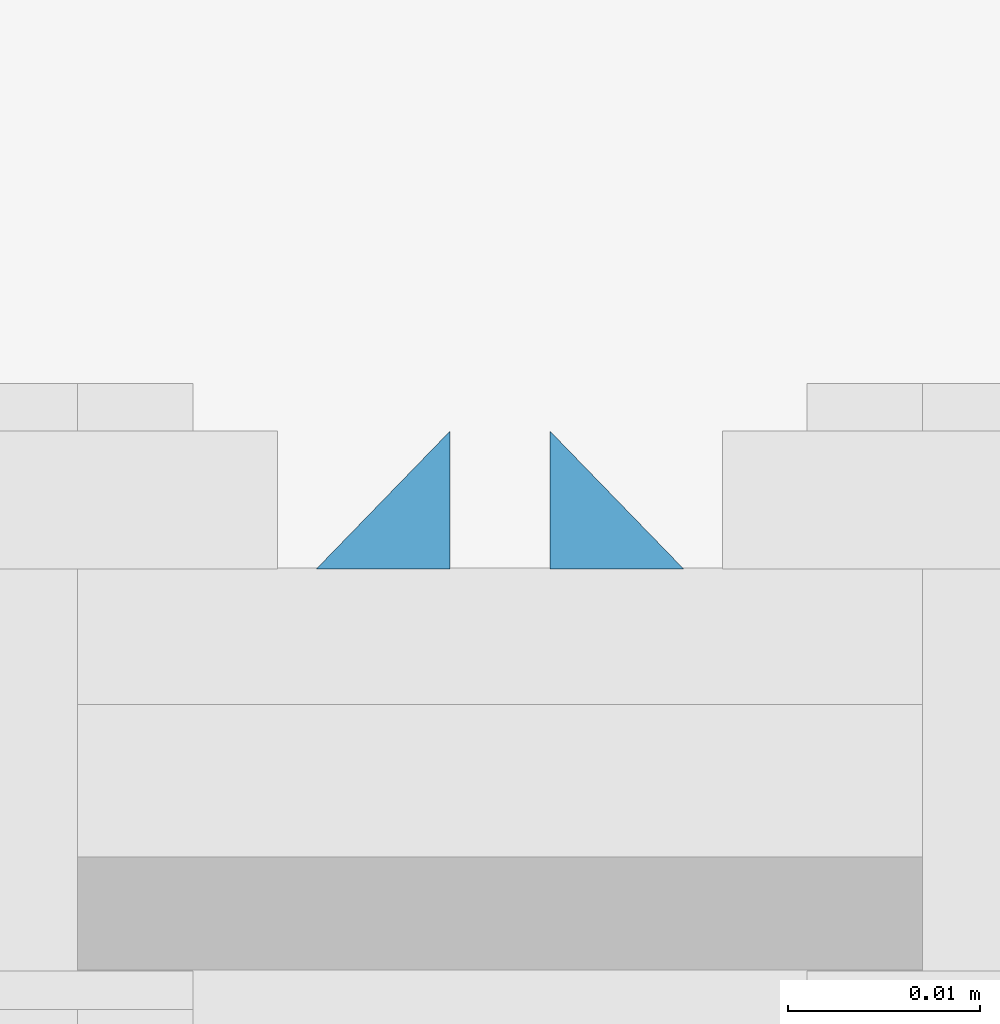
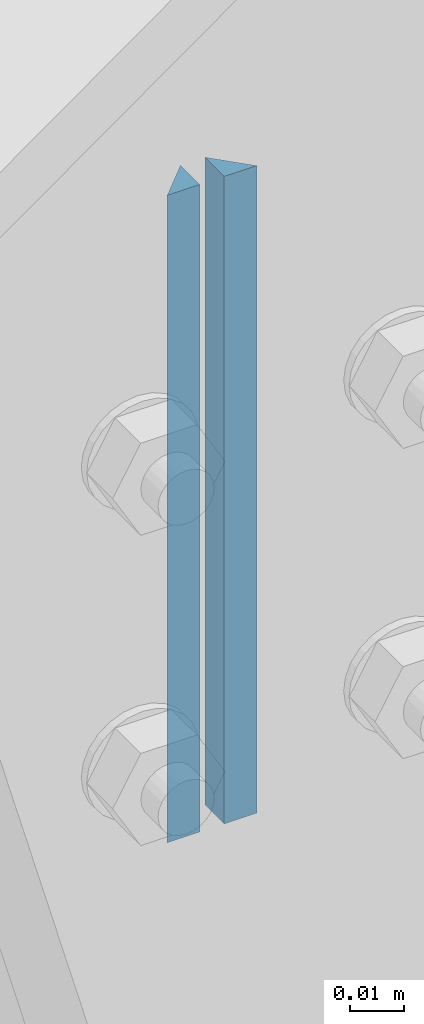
# One storey, part 19 of 251: 4 fasteners.
"""IFC4 building model written with IfcOpenShell, lengths in metres."""

from ifc_helpers import new_model, si_unit, frame, origin_with_axes, place, context, project, spatial, polyline, outline, extrude, type_object, element, save


model = new_model("IFC4")

# Units and contexts
model_context = context("Model", 3, precision=1e-05, world=origin_with_axes())
ifc_project = project(units=[si_unit("LENGTHUNIT", "METRE"), si_unit("AREAUNIT", "SQUARE_METRE"), si_unit("VOLUMEUNIT", "CUBIC_METRE"), si_unit("MASSUNIT", "GRAM", prefix="KILO"), si_unit("TIMEUNIT", "SECOND"), si_unit("PLANEANGLEUNIT", "RADIAN"), si_unit("SOLIDANGLEUNIT", "STERADIAN"), si_unit("THERMODYNAMICTEMPERATUREUNIT", "DEGREE_CELSIUS")], contexts=[model_context])

# Site, building, storey
placement_1 = place(None, origin_with_axes())
site = spatial("IfcSite", under=ifc_project, at=placement_1, Name="Italia", CompositionType="ELEMENT")
building = spatial("IfcBuilding", under=site, at=placement_1, Name="Deposito", CompositionType="ELEMENT")
storey = spatial("IfcBuildingStorey", under=building, at=placement_1, Name="Storey 0", CompositionType="ELEMENT", Elevation=0.0)

# Fasteners
fastener_type_1 = type_object("IfcFastenerType", Name="Collegamento -069_-070", PredefinedType="WELD")
placement_2 = place(placement_1, origin_with_axes())
fastener_1_placement = place(placement_2, origin_with_axes())
element("IfcFastener", 1, at=fastener_1_placement, inside=storey, type_object=fastener_type_1, Name="Collegamento -069_-070", context=model_context, shape_type="SweptSolid", body=[
    extrude(outline(polyline([(0.0, 0.0), (0.00717336, -0.00695801), (0.0, -0.00695801), (0.0, 0.0)])), frame((6.04044, 0.01795, 6.74713), z_axis=(0.0, 0.0, 1.0), x_axis=(0.0, 1.0, 0.0)), (0.0, 0.0, 1.0), 0.146099),
])
fastener_type_2 = type_object("IfcFastenerType", Name="Collegamento -069_-070", PredefinedType="WELD")
fastener_2_placement = place(placement_2, origin_with_axes())
element("IfcFastener", 2, at=fastener_2_placement, inside=storey, type_object=fastener_type_2, Name="Collegamento -069_-070", context=model_context, shape_type="SweptSolid", body=[
    extrude(outline(polyline([(0.0, 0.0), (0.00717336, -0.00695801), (0.0, -0.00695801), (0.0, 0.0)])), frame((6.05956, 0.01795, 6.89323), z_axis=(0.0, 0.0, -1.0), x_axis=(0.0, 1.0, 0.0)), (0.0, 0.0, 1.0), 0.146099),
])
fastener_type_3 = type_object("IfcFastenerType", Name="Collegamento -069_-070", PredefinedType="WELD")
fastener_3_placement = place(placement_2, origin_with_axes())
element("IfcFastener", 3, at=fastener_3_placement, inside=storey, type_object=fastener_type_3, Name="Collegamento -069_-070", context=model_context, shape_type="SweptSolid", body=[
    extrude(outline(polyline([(0.0, 0.0), (0.00717336, -0.00695801), (0.0, -0.00695801), (0.0, 0.0)])), frame((6.04044, 0.01795, 6.74713), z_axis=(0.0, 0.0, 1.0), x_axis=(0.0, 1.0, 0.0)), (0.0, 0.0, 1.0), 0.146099),
])
fastener_type_4 = type_object("IfcFastenerType", Name="Collegamento -069_-070", PredefinedType="WELD")
fastener_4_placement = place(placement_2, origin_with_axes())
element("IfcFastener", 4, at=fastener_4_placement, inside=storey, type_object=fastener_type_4, Name="Collegamento -069_-070", context=model_context, shape_type="SweptSolid", body=[
    extrude(outline(polyline([(0.0, 0.0), (0.00717336, -0.00695801), (0.0, -0.00695801), (0.0, 0.0)])), frame((6.05956, 0.01795, 6.89323), z_axis=(0.0, 0.0, -1.0), x_axis=(0.0, 1.0, 0.0)), (0.0, 0.0, 1.0), 0.146099),
])

save(model, "model.ifc")
